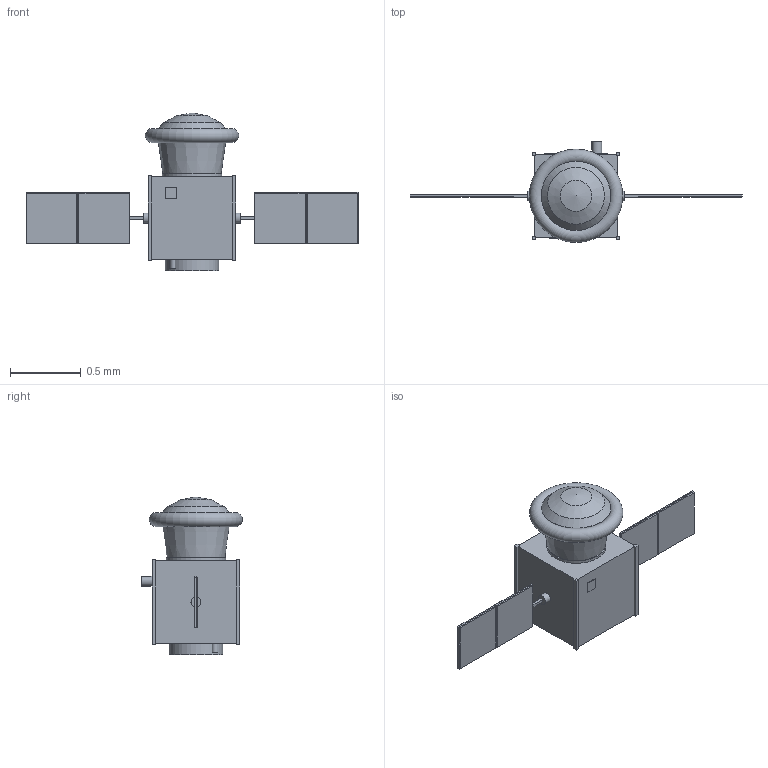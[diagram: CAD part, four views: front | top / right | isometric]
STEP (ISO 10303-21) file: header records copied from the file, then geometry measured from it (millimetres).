
FILE_DESCRIPTION(('Open CASCADE Model'),'2;1');
FILE_NAME('Open CASCADE Shape Model','2026-10-04T09:01:24',('Author'),( 'Open CASCADE'),'Open CASCADE STEP processor 7.9','Open CASCADE 7.9' ,'Unknown');
FILE_SCHEMA(('AUTOMOTIVE_DESIGN { 1 0 10303 214 1 1 1 1 }'));
Length unit declared in the file: millimetre
Products named in the file (45): SP-AMR; capsule_backshell; nose; heat_shield_packed; sample_drawer; sample_cassette_1; sample_cassette_2; sample_cassette_3; optical_window; capsule_avionics_and_hold_battery; parachute_canister; recovery_beacon; separation_interface; service_module_structure; corner_rail_-X-Y; corner_rail_-X+Y; corner_rail_+X-Y; corner_rail_+X+Y; radiator_+Y_face; experiment_instruments_microscope_pumps_reservoirs; propellant_tank_LMP-103S; battery; on-board_computer_and_radios; reaction_wheel_1; reaction_wheel_2; reaction_wheel_3; magnetorquer_1; magnetorquer_2; star_tracker; S-band_antenna; 22_N_thruster_1; 22_N_thruster_2; launch_separation_ring; array_drive_-X; yoke_-X; solar_panel_-X1; panel_frame_-X1; solar_panel_-X2; panel_frame_-X2; array_drive_+X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
Assembly tree (44 placements, depth 2):
  SP-AMR
    capsule_backshell
    nose
    heat_shield_packed
    sample_drawer
    sample_cassette_1
    sample_cassette_2
    sample_cassette_3
    optical_window
    capsule_avionics_and_hold_battery
    parachute_canister
    recovery_beacon
    separation_interface
    service_module_structure
    corner_rail_-X-Y
    corner_rail_-X+Y
    corner_rail_+X-Y
    corner_rail_+X+Y
    radiator_+Y_face
    experiment_instruments_microscope_pumps_reservoirs
    propellant_tank_LMP-103S
    battery
    on-board_computer_and_radios
    reaction_wheel_1
    reaction_wheel_2
    reaction_wheel_3
    magnetorquer_1
    magnetorquer_2
    star_tracker
    S-band_antenna
    22_N_thruster_1
    22_N_thruster_2
    launch_separation_ring
    array_drive_-X
    yoke_-X
    solar_panel_-X1
    panel_frame_-X1
    solar_panel_-X2
    panel_frame_-X2
    array_drive_+X
    yoke_+X
    solar_panel_+X1
    panel_frame_+X1
    solar_panel_+X2
    panel_frame_+X2
Bounding box: 2.35 x 0.72 x 1.12 mm (x, y, z)
Volume: 0.3 mm3; surface area: 8.7 mm2
Topology: 44 solids, 44 shells, 209 faces, 374 edges, 248 vertices
Faces by surface type: plane 187, cylinder 16, cone 4, torus 1, sphere 1
Full cylindrical faces by diameter (mm): 0.024 x2, 0.04 x1, 0.045 x2, 0.07 x3, 0.09 x3, 0.14 x1, 0.341 x1, 0.381 x1, 0.423 x1, 0.491 x1
Entity records: 10875 total; most frequent: DIRECTION 1656, CARTESIAN_POINT 1611, LINE 1039, VECTOR 1039, ORIENTED_EDGE 740, PCURVE 740, DEFINITIONAL_REPRESENTATION 740, EDGE_CURVE 370
